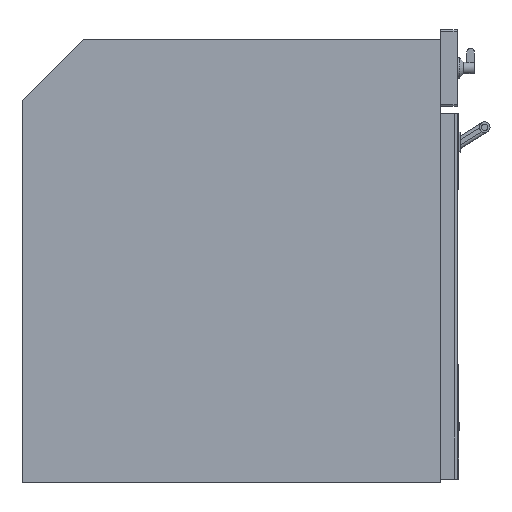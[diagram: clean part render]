
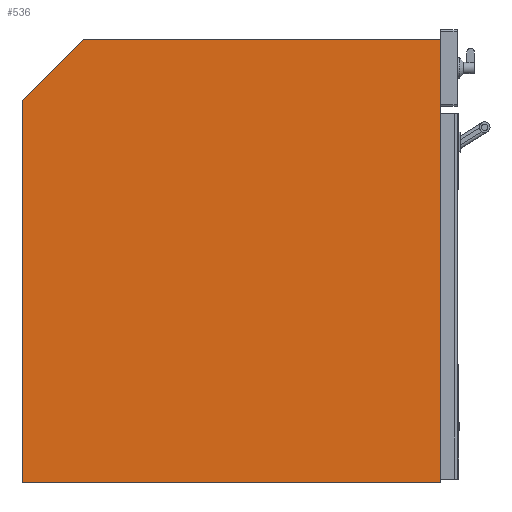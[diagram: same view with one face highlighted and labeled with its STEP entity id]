
A CAD part, front view. The second image highlights one B-rep face of the part: STEP entity #536.
In plain terms, the highlighted planar face has unit normal (0, -1, 0).
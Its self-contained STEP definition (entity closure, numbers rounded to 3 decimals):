
#536=ADVANCED_FACE('',(#878),#742,.T.);
#742=PLANE('',#3471);
#878=FACE_OUTER_BOUND('',#1045,.T.);
#1045=EDGE_LOOP('',(#1316,#1317,#1318,#1319,#1320,#1321));
#1316=ORIENTED_EDGE('',*,*,#2458,.T.);
#1317=ORIENTED_EDGE('',*,*,#2462,.T.);
#1318=ORIENTED_EDGE('',*,*,#2465,.T.);
#1319=ORIENTED_EDGE('',*,*,#2468,.T.);
#1320=ORIENTED_EDGE('',*,*,#2456,.T.);
#1321=ORIENTED_EDGE('',*,*,#2471,.T.);
#2154=VERTEX_POINT('',#4700);
#2155=VERTEX_POINT('',#4702);
#2156=VERTEX_POINT('',#4706);
#2157=VERTEX_POINT('',#4707);
#2160=VERTEX_POINT('',#4715);
#2162=VERTEX_POINT('',#4721);
#2456=EDGE_CURVE('',#2155,#2154,#2887,.T.);
#2458=EDGE_CURVE('',#2156,#2157,#2889,.T.);
#2462=EDGE_CURVE('',#2157,#2160,#2893,.T.);
#2465=EDGE_CURVE('',#2160,#2162,#2896,.T.);
#2468=EDGE_CURVE('',#2162,#2155,#2899,.T.);
#2471=EDGE_CURVE('',#2154,#2156,#2902,.T.);
#2887=LINE('',#4701,#3171);
#2889=LINE('',#4705,#3173);
#2893=LINE('',#4714,#3177);
#2896=LINE('',#4720,#3180);
#2899=LINE('',#4726,#3183);
#2902=LINE('',#4731,#3186);
#3171=VECTOR('',#3780,1.);
#3173=VECTOR('',#3784,1.);
#3177=VECTOR('',#3790,1.);
#3180=VECTOR('',#3795,1.);
#3183=VECTOR('',#3800,1.);
#3186=VECTOR('',#3807,1.);
#3471=AXIS2_PLACEMENT_3D('',#4732,#3808,#3809);
#3780=DIRECTION('',(0.,0.,1.));
#3784=DIRECTION('',(-1.,0.,0.));
#3790=DIRECTION('',(-0.707,0.,-0.707));
#3795=DIRECTION('',(0.,0.,-1.));
#3800=DIRECTION('',(1.,0.,0.));
#3807=DIRECTION('',(0.,0.,1.));
#3808=DIRECTION('',(0.,-1.,0.));
#3809=DIRECTION('',(0.,0.,-1.));
#4700=CARTESIAN_POINT('',(548.,0.,4.));
#4701=CARTESIAN_POINT('',(548.,0.,0.));
#4702=CARTESIAN_POINT('',(548.,0.,0.));
#4705=CARTESIAN_POINT('',(548.,0.,580.));
#4706=CARTESIAN_POINT('',(548.,0.,580.));
#4707=CARTESIAN_POINT('',(80.,0.,580.));
#4714=CARTESIAN_POINT('',(80.,0.,580.));
#4715=CARTESIAN_POINT('',(0.,0.,500.));
#4720=CARTESIAN_POINT('',(0.,0.,500.));
#4721=CARTESIAN_POINT('',(0.,0.,0.));
#4726=CARTESIAN_POINT('',(0.,0.,0.));
#4731=CARTESIAN_POINT('',(548.,0.,0.));
#4732=CARTESIAN_POINT('',(0.,0.,580.));
